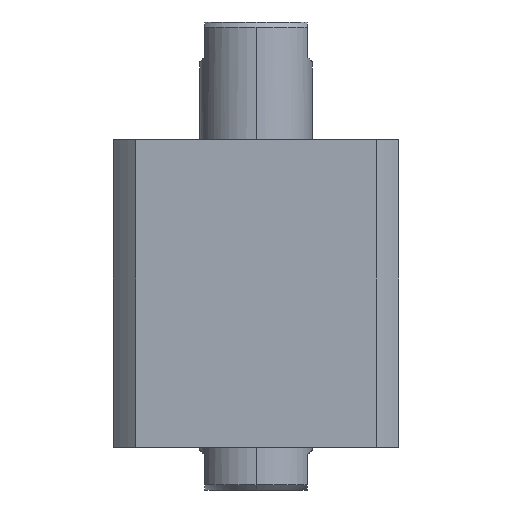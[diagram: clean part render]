
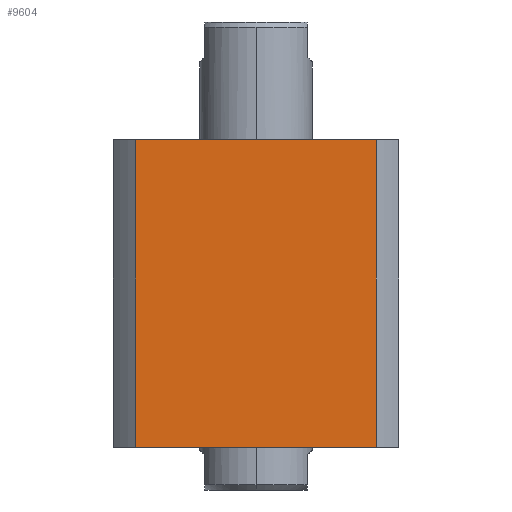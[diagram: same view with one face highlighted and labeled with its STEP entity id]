
A CAD part, front view. The second image highlights one B-rep face of the part: STEP entity #9604.
In plain terms, the highlighted planar face has unit normal (0, -1, 0) as drawn and (-1, 0, 0) by its records, which use the part's own axes.
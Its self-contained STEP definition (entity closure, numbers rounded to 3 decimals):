
#647 = VECTOR ( 'NONE', #2005, 1000. ) ;
#905 = CARTESIAN_POINT ( 'NONE',  ( -57., 47.971, -177. ) ) ;
#1201 = DIRECTION ( 'NONE',  ( 0., -1., 0. ) ) ;
#1308 = EDGE_CURVE ( 'NONE', #14742, #6987, #15578, .T. ) ;
#1835 = PLANE ( 'NONE',  #10624 ) ;
#2005 = DIRECTION ( 'NONE',  ( 0., 0., -1. ) ) ;
#2522 = LINE ( 'NONE', #15721, #11850 ) ;
#4457 = DIRECTION ( 'NONE',  ( 0., -1., 0. ) ) ;
#5259 = FACE_OUTER_BOUND ( 'NONE', #6172, .T. ) ;
#5537 = DIRECTION ( 'NONE',  ( 0., 1., 0. ) ) ;
#5919 = CARTESIAN_POINT ( 'NONE',  ( -57., 47.971, 0. ) ) ;
#6172 = EDGE_LOOP ( 'NONE', ( #15761, #15229, #11914, #12055 ) ) ;
#6510 = CARTESIAN_POINT ( 'NONE',  ( -57., -47.971, 123. ) ) ;
#6927 = LINE ( 'NONE', #905, #13354 ) ;
#6987 = VERTEX_POINT ( 'NONE', #10426 ) ;
#7508 = VERTEX_POINT ( 'NONE', #6510 ) ;
#8235 = EDGE_CURVE ( 'NONE', #14742, #13596, #6927, .T. ) ;
#9285 = CARTESIAN_POINT ( 'NONE',  ( -57., -47.971, -177. ) ) ;
#9390 = DIRECTION ( 'NONE',  ( 0., 0., 1. ) ) ;
#9604 = ADVANCED_FACE ( 'NONE', ( #5259 ), #1835, .F. ) ;
#10426 = CARTESIAN_POINT ( 'NONE',  ( -57., -47.971, 0. ) ) ;
#10624 = AXIS2_PLACEMENT_3D ( 'NONE', #11560, #12783, #5537 ) ;
#11560 = CARTESIAN_POINT ( 'NONE',  ( -57., 57., 123. ) ) ;
#11850 = VECTOR ( 'NONE', #1201, 1000. ) ;
#11914 = ORIENTED_EDGE ( 'NONE', *, *, #15383, .F. ) ;
#12055 = ORIENTED_EDGE ( 'NONE', *, *, #14861, .F. ) ;
#12317 = VECTOR ( 'NONE', #4457, 1000. ) ;
#12380 = CARTESIAN_POINT ( 'NONE',  ( -57., 47.971, 123. ) ) ;
#12783 = DIRECTION ( 'NONE',  ( 1., 0., 0. ) ) ;
#13178 = LINE ( 'NONE', #9285, #647 ) ;
#13354 = VECTOR ( 'NONE', #9390, 1000. ) ;
#13596 = VERTEX_POINT ( 'NONE', #12380 ) ;
#14127 = CARTESIAN_POINT ( 'NONE',  ( -57., 57., 0. ) ) ;
#14742 = VERTEX_POINT ( 'NONE', #5919 ) ;
#14861 = EDGE_CURVE ( 'NONE', #13596, #7508, #2522, .T. ) ;
#15229 = ORIENTED_EDGE ( 'NONE', *, *, #1308, .T. ) ;
#15383 = EDGE_CURVE ( 'NONE', #7508, #6987, #13178, .T. ) ;
#15578 = LINE ( 'NONE', #14127, #12317 ) ;
#15721 = CARTESIAN_POINT ( 'NONE',  ( -57., 57., 123. ) ) ;
#15761 = ORIENTED_EDGE ( 'NONE', *, *, #8235, .F. ) ;
